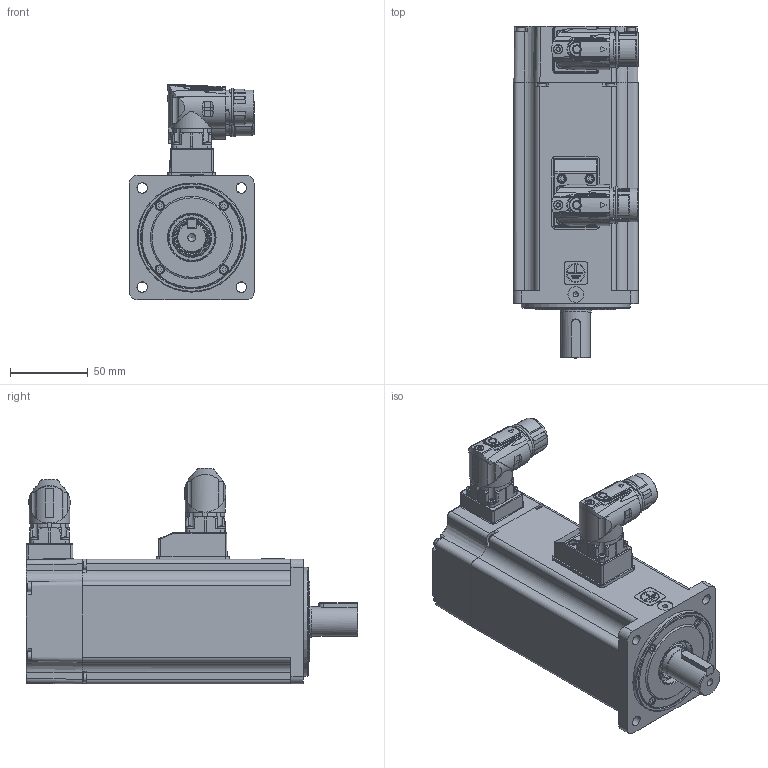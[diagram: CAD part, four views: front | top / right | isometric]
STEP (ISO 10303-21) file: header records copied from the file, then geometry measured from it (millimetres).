
FILE_DESCRIPTION( ( 'Unknown' ), '1' );
FILE_NAME( 'U:/05_Progetto TCE/010-TCE motor drawings/TCE80/vuoti/TCE80 3B XX 3 A2 1 C2.stp', 'Unknown', ( 'Unknown' ), ( 'Unknown' ), 'PSStep 17.0.49', 'Unknown', ' ' );
FILE_SCHEMA( ( 'AUTOMOTIVE_DESIGN { 1 0 10303 214 1 1 1 1 }' ) );
Length unit declared in the file: millimetre
Products named in the file (19): 005204000002
Bounding box: 80.3 x 213 x 138.5 mm (x, y, z)
Volume: 551798 mm3; surface area: 231717.8 mm2
Topology: 19 solids, 97 shells, 3037 faces, 7579 edges, 4885 vertices
Faces by surface type: plane 1446, cylinder 774, cone 282, bspline 218, torus 173, sphere 106, extrusion 38
Full cylindrical faces by diameter (mm): 1 x21, 1.2 x17, 1.4 x4, 1.5 x2, 2 x12, 2.013 x3, 2.2 x2, 2.459 x46, 2.5 x11, 2.65 x4, 2.7 x2, 2.8 x4, 3 x34, 3.2 x1, 3.242 x4, 3.4 x6, 3.5 x19, 4.4 x8, 4.5 x2, 4.7 x3, 4.917 x2, 5 x1, 5.5 x21, 5.8 x1, 5.9 x2, 6 x7, 6.8 x1, 8 x5, 10 x1, 11 x1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
Entity records: 121019 total; most frequent: CARTESIAN_POINT 33480, DIRECTION 13710, ORIENTED_EDGE 13154, EDGE_CURVE 6577, AXIS2_PLACEMENT_3D 5196, VERTEX_POINT 4629, EDGE_LOOP 4001, FACE_OUTER_BOUND 3485
